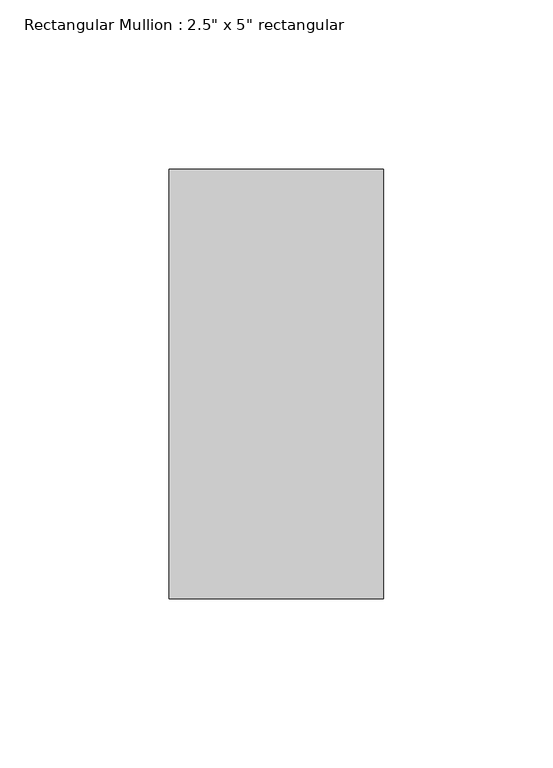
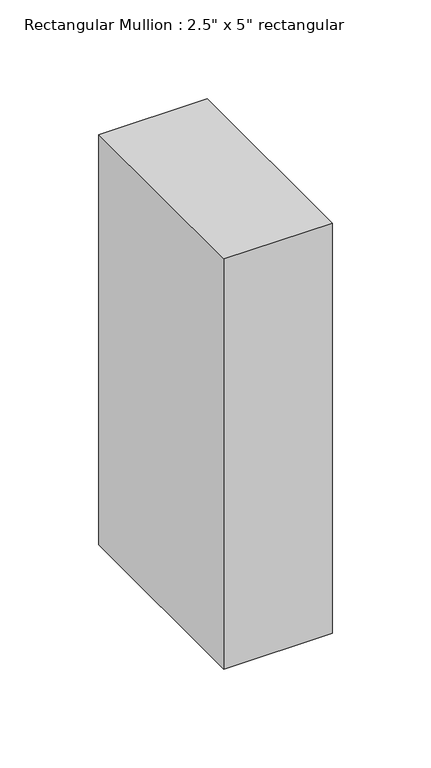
"""IFC4 building model written with IfcOpenShell, lengths in millimetres: member geometry."""

import ifcopenshell
import ifcopenshell.guid

model = None  # the IFC model being written
_history = None  # IfcOwnerHistory: only IFC2X3 demands one
_inside = {}  # id of a spatial element -> (the spatial element, [elements in it])
_under = {}  # id of a project, library or spatial element -> (it, [spatial elements below it])
_declared = {}  # id of a project -> (the project, [libraries it declares])
_typed = {}  # id of a type object -> (the type object, [elements of that type])
_made_of = {}  # id of a material, layer set ... -> (it, [elements and type objects made of it])


def new_model(schema):
    """Start an empty IFC model of exactly this schema.

    Asked for "IFC4X3", IfcOpenShell would pick the latest addendum, in which some entities
    have other attributes; the version numbers below select the first issue.
    IFC2X3 requires an IfcOwnerHistory on every rooted entity: one is made here for all.
    """
    global model, _history
    if schema == "IFC4X3":
        model = ifcopenshell.file(schema_version=(4, 3, 0, 0))
    else:
        model = ifcopenshell.file(schema=schema)
    _inside.clear()
    _under.clear()
    _declared.clear()
    _typed.clear()
    _made_of.clear()
    _history = None
    if model.schema == "IFC2X3":
        org = make("IfcOrganization", Name="unknown")
        user = make(
            "IfcPersonAndOrganization",
            ThePerson=make("IfcPerson", FamilyName="unknown"),
            TheOrganization=org,
        )
        app = make(
            "IfcApplication",
            ApplicationDeveloper=org,
            Version="unknown",
            ApplicationFullName="unknown",
            ApplicationIdentifier="unknown",
        )
        _history = make(
            "IfcOwnerHistory",
            OwningUser=user,
            OwningApplication=app,
            ChangeAction="ADDED",
            CreationDate=0,
        )
    return model


def make(cls, **values):
    """One entity of the class cls with the attributes given. An attribute that is None is left unset."""
    return model.create_entity(
        cls, **{name: value for name, value in values.items() if value is not None}
    )


def rooted(cls, **values):
    """An entity with a GlobalId (a new one), such as an element, a storey or a relation."""
    return make(cls, GlobalId=ifcopenshell.guid.new(), OwnerHistory=_history, **values)


def si_unit(unit_type, name, prefix=None):
    """IfcSIUnit, for example si_unit("LENGTHUNIT", "METRE", prefix="MILLI")."""
    return make("IfcSIUnit", UnitType=unit_type, Prefix=prefix, Name=name)


def assignment(units):
    """IfcUnitAssignment: the units of a project."""
    return None if units is None else make("IfcUnitAssignment", Units=units)


def point(xyz):
    """IfcCartesianPoint."""
    return None if xyz is None else make("IfcCartesianPoint", Coordinates=xyz)


def direction(xyz):
    """IfcDirection."""
    return None if xyz is None else make("IfcDirection", DirectionRatios=xyz)


def frame(location, z_axis=None, x_axis=None):
    """IfcAxis2Placement3D, a coordinate frame: its origin and axes. An axis left out is left unset."""
    return make(
        "IfcAxis2Placement3D",
        Location=point(location),
        Axis=direction(z_axis),
        RefDirection=direction(x_axis),
    )


def origin():
    """The frame at (0, 0, 0) with its axes left unset."""
    return frame((0.0, 0.0, 0.0))


def place(relative_to, where):
    """IfcLocalPlacement: puts the frame where relative to a parent placement (None: the world)."""
    return make(
        "IfcLocalPlacement", PlacementRelTo=relative_to, RelativePlacement=where
    )


def context(
    kind, dimensions, precision=None, world=None, true_north=None, identifier=None
):
    """IfcGeometricRepresentationContext, for example the 3D "Model" context."""
    return make(
        "IfcGeometricRepresentationContext",
        ContextIdentifier=identifier,
        ContextType=kind,
        CoordinateSpaceDimension=dimensions,
        Precision=precision,
        WorldCoordinateSystem=world,
        TrueNorth=true_north,
    )


def project(units=None, contexts=None):
    """IfcProject with its units and contexts."""
    return rooted(
        "IfcProject",
        Name="project",
        RepresentationContexts=contexts,
        UnitsInContext=assignment(units),
    )


def spatial(cls, under=None, at=None, **own):
    """A site, building, storey or space (cls), placed at a placement, below another one or the project."""
    s = rooted(cls, ObjectPlacement=at, **own)
    if under is not None:
        _under.setdefault(under.id(), (under, []))[1].append(s)
    return s


def polyline(points):
    """IfcPolyline through the points."""
    return make("IfcPolyline", Points=[point(p) for p in points])


def outline(outer, holes=None, kind="AREA"):
    """IfcArbitraryClosedProfileDef: a profile drawn as a closed curve; with holes, ...WithVoids."""
    if holes is None:
        return make("IfcArbitraryClosedProfileDef", ProfileType=kind, OuterCurve=outer)
    return make(
        "IfcArbitraryProfileDefWithVoids",
        ProfileType=kind,
        OuterCurve=outer,
        InnerCurves=holes,
    )


def extrude(swept, where, along, depth):
    """IfcExtrudedAreaSolid: the profile swept, set in the frame where, extruded along a direction by depth."""
    return make(
        "IfcExtrudedAreaSolid",
        SweptArea=swept,
        Position=where,
        ExtrudedDirection=direction(along),
        Depth=depth,
    )


def shape(context_of_items, identifier, shape_type, items):
    """IfcShapeRepresentation: the items that make up one representation, for example the "Body"."""
    return make(
        "IfcShapeRepresentation",
        ContextOfItems=context_of_items,
        RepresentationIdentifier=identifier,
        RepresentationType=shape_type,
        Items=items,
    )


def source(mapping_origin, context_of_items, identifier, shape_type, items):
    """IfcRepresentationMap: a shape defined once, which mapped items show again and again."""
    return make(
        "IfcRepresentationMap",
        MappingOrigin=mapping_origin,
        MappedRepresentation=shape(context_of_items, identifier, shape_type, items),
    )


def transform(
    local_origin,
    x_axis=None,
    y_axis=None,
    z_axis=None,
    scale=None,
    scale2=None,
    scale3=None,
    uniform=True,
):
    """IfcCartesianTransformationOperator3D, or its non-uniform kind. x_axis, y_axis, z_axis: its Axis1, 2, 3."""
    if uniform:
        return make(
            "IfcCartesianTransformationOperator3D",
            Axis1=direction(x_axis),
            Axis2=direction(y_axis),
            LocalOrigin=point(local_origin),
            Scale=scale,
            Axis3=direction(z_axis),
        )
    return make(
        "IfcCartesianTransformationOperator3DnonUniform",
        Axis1=direction(x_axis),
        Axis2=direction(y_axis),
        LocalOrigin=point(local_origin),
        Scale=scale,
        Axis3=direction(z_axis),
        Scale2=scale2,
        Scale3=scale3,
    )


def mapped(mapping_source, mapping_target):
    """IfcMappedItem: shows the shape of a source again, moved by a transform."""
    return make(
        "IfcMappedItem", MappingSource=mapping_source, MappingTarget=mapping_target
    )


def made_of(thing, what):
    """Note that an element or type object is made of a material, layer set ...; save() writes the relation."""
    if what is not None:
        _made_of.setdefault(what.id(), (what, []))[1].append(thing)
    return thing


def element(
    cls,
    number,
    at=None,
    inside=None,
    cuts=None,
    type_object=None,
    material=None,
    context=None,
    identifier="Body",
    shape_type=None,
    held_by="IfcProductDefinitionShape",
    body=None,
    shapes=None,
    **own,
):
    """One element of the class cls, such as IfcWall. Its Tag is "e" and its number.

    at: its placement. inside: the storey or other place that contains it. cuts: it is an
    opening in that element (IfcRelVoidsElement). A single representation is given by context,
    identifier, shape_type and body (its items); several are given by shapes. held_by: the class
    of the entity that holds the representations. save() writes the other relations.
    """
    e = rooted(cls, Tag="e%d" % number, ObjectPlacement=at, **own)
    if body is not None:
        shapes = [shape(context, identifier, shape_type, body)]
    if shapes is not None:
        e.Representation = make(held_by, Representations=shapes)
    if inside is not None:
        _inside.setdefault(inside.id(), (inside, []))[1].append(e)
    if cuts is not None:
        rooted(
            "IfcRelVoidsElement", RelatingBuildingElement=cuts, RelatedOpeningElement=e
        )
    if type_object is not None:
        _typed.setdefault(type_object.id(), (type_object, []))[1].append(e)
    return made_of(e, material)


def aggregate(whole, parts):
    """IfcRelAggregates: a whole, such as a stair, and the parts it consists of."""
    return rooted("IfcRelAggregates", RelatingObject=whole, RelatedObjects=parts)


def save(model, path):
    """Write the relations noted so far, then the file.

    IfcRelAggregates (storeys below a building ...), IfcRelContainedInSpatialStructure (elements
    in a storey), IfcRelDefinesByType, IfcRelAssociatesMaterial and IfcRelDeclares: one each for
    every whole, place, type object, material and project.
    """
    for whole, parts in _under.values():
        aggregate(whole, parts)
    for where, things in _inside.values():
        rooted(
            "IfcRelContainedInSpatialStructure",
            RelatedElements=things,
            RelatingStructure=where,
        )
    for kind, things in _typed.values():
        rooted("IfcRelDefinesByType", RelatedObjects=things, RelatingType=kind)
    for what, things in _made_of.values():
        rooted("IfcRelAssociatesMaterial", RelatedObjects=things, RelatingMaterial=what)
    for by, libraries in _declared.values():
        rooted("IfcRelDeclares", RelatingContext=by, RelatedDefinitions=libraries)
    model.write(path)


def member_a44b2684(model_context):
    return source(origin(), model_context, "Body", "SweptSolid", [
        extrude(outline(polyline([(0.0, 63.5), (0.0, -63.5), (-63.5, -63.5), (-63.5, 63.5), (0.0, 63.5)])), frame((0.0, 0.0, -254.0), z_axis=(0.0, 0.0, 1.0), x_axis=(1.0, 0.0, 0.0)), (0.0, 0.0, 1.0), 254.0),
    ])


if __name__ == "__main__":
    model = new_model("IFC4")
    model_context = context("Model", 3, world=origin())
    ifc_project = project(units=[si_unit("LENGTHUNIT", "METRE", prefix="MILLI")], contexts=[model_context])
    site = spatial("IfcSite", under=ifc_project)
    building = spatial("IfcBuilding", under=site)
    placement = place(None, origin())
    member_shape = member_a44b2684(model_context)
    element("IfcMember", 1, ObjectType="Rectangular Mullion : 2.5\" x 5\" rectangular", at=placement, inside=building, context=model_context, shape_type="MappedRepresentation", body=[
        mapped(member_shape, transform((0.0, 0.0, 0.0), x_axis=(1.0, 0.0, 0.0), y_axis=(0.0, 1.0, 0.0), z_axis=(0.0, 0.0, 1.0))),
    ])
    save(model, "model.ifc")
